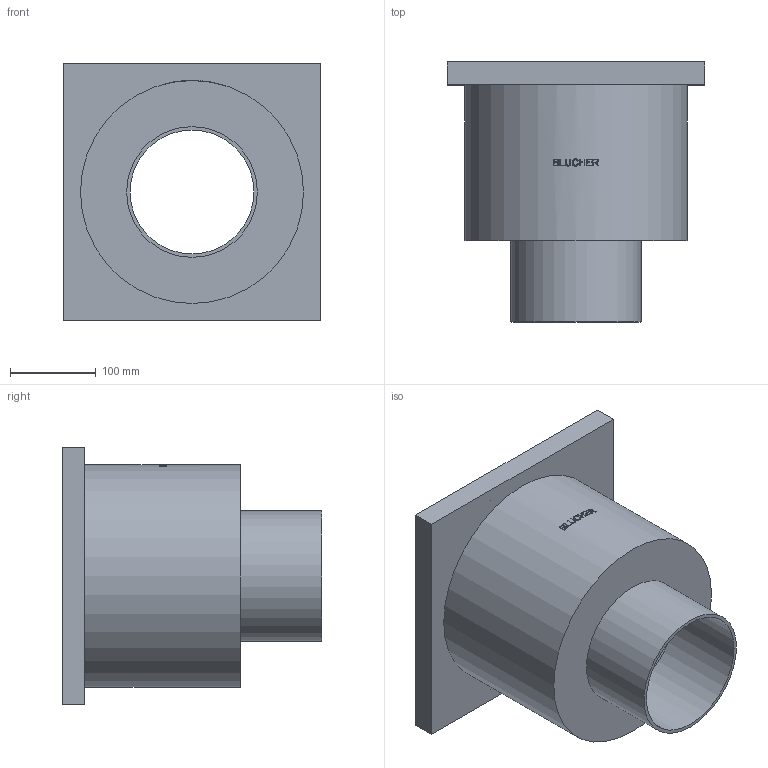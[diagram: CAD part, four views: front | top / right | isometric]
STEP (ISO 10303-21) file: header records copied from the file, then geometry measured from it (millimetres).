
FILE_DESCRIPTION((''),'2;1');
FILE_NAME('C:\Drawings\3D_CAD_Models\Blucher\BFD_Floor Drains_Complete_091119\BFD-300\WebsiteFiles\3D\STEP\BFD-346.stp','2009-11-29T11:38:03',('hofmansp'),(''),'Autodesk Inventor 2010','Autodesk Inventor 2010','');
FILE_SCHEMA(('AUTOMOTIVE_DESIGN { 1 0 10303 214 1 1 1 1 }'));
Length unit declared in the file: inch
Products named in the file (1): BFD-346
Bounding box: 300 x 303 x 300 mm (x, y, z)
Volume: 1097091.2 mm3; surface area: 588728.4 mm2
Topology: 1 solids, 1 shells, 116 faces, 302 edges, 202 vertices
Faces by surface type: plane 68, bspline 34, cylinder 14
Full cylindrical faces by diameter (mm): 144.4 x1, 152.4 x1, 255.999 x1, 260 x1
Entity records: 14330 total; most frequent: CARTESIAN_POINT 11752, ORIENTED_EDGE 592, DIRECTION 392, EDGE_CURVE 296, VERTEX_POINT 200, VECTOR 140, LINE 140, EDGE_LOOP 136
